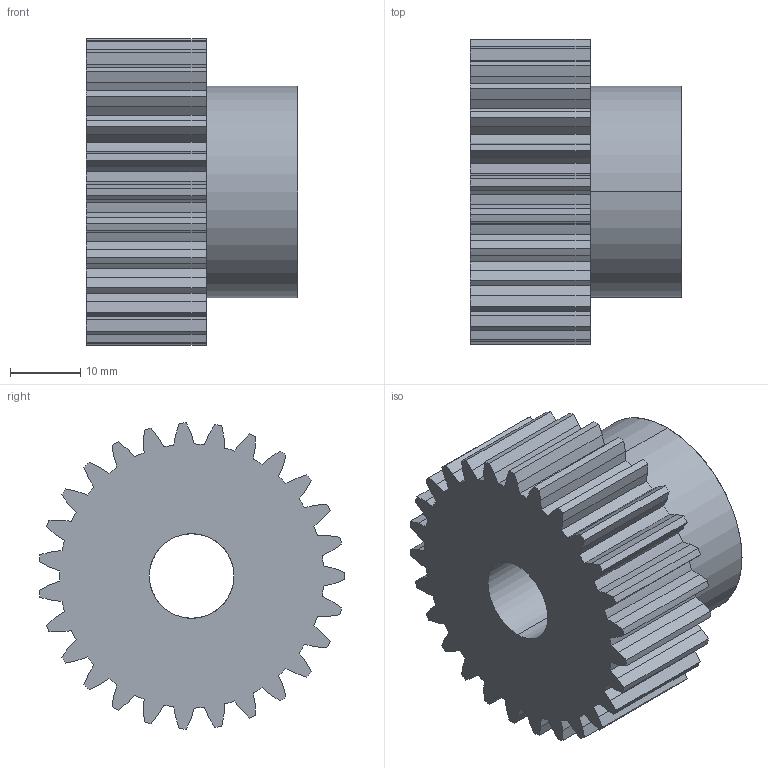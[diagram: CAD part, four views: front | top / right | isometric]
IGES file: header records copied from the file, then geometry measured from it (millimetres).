
Start section: SolidWorks IGES file using analytic representation for surfaces
Global section: file name: C:\Users\Honza\Desktop\Matis (Hotove)\Èelní ozubená kola\PM\MODUL 1,5\PM 27027.IGS; native system: SolidWorks 2010; preprocessor: SolidWorks 2010; author: Honza; date: 130924.120638; units: millimetre
Bounding box: 30 x 43.4 x 43.47 mm (x, y, z)
Surface area: 8741.4 mm2 (no closed solid volume)
Topology: 0 solids, 0 shells, 169 faces, 1181 edges, 1181 vertices
Faces by surface type: bspline 111, revolution 58
